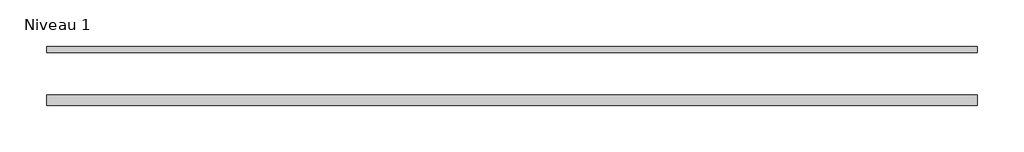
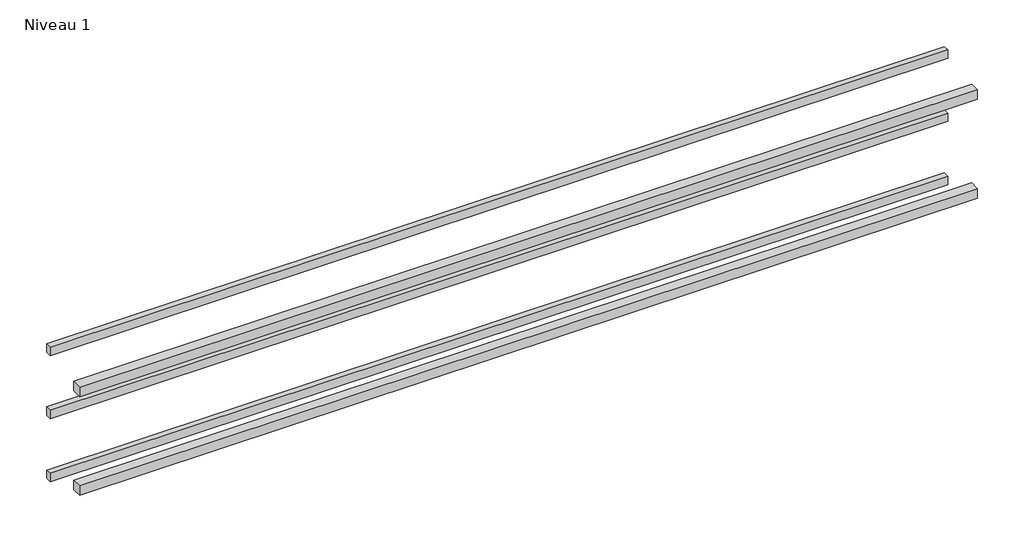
# One storey: 5 beams.
"""IFC4 building model written with IfcOpenShell, lengths in millimetres."""

from ifc_helpers import new_model, si_unit, origin, place, context, project, spatial, transform, mapped, element, save
from components import beam_40x27_4b46f52b, beam_45x45_aacaedf5

model = new_model("IFC4")

# Units and contexts
model_context = context("Model", 3, world=origin())
ifc_project = project(units=[si_unit("LENGTHUNIT", "METRE", prefix="MILLI")], contexts=[model_context])

# Site, building, storey
site = spatial("IfcSite", under=ifc_project)
building = spatial("IfcBuilding", under=site)
storey = spatial("IfcBuildingStorey", under=building, Name="Niveau 1", Elevation=3000.0)

# Beams
placement = place(None, origin())
beam_40x27_shape = beam_40x27_4b46f52b(model_context)
element("IfcBeam", 1, ObjectType="Poutre - Bois d'oeuvre : 40x27", at=placement, inside=storey, context=model_context, shape_type="MappedRepresentation", body=[
    mapped(beam_40x27_shape, transform((-4175.8830184, -849.7584766, 1780.0), x_axis=(1.0, 0.0, 0.0), y_axis=(0.0, 1.0, 0.0), z_axis=(0.0, 0.0, 1.0))),
])
element("IfcBeam", 2, ObjectType="Poutre - Bois d'oeuvre : 40x27", at=placement, inside=storey, context=model_context, shape_type="MappedRepresentation", body=[
    mapped(beam_40x27_shape, transform((-4175.8830184, -849.7584766, 2080.0), x_axis=(1.0, 0.0, 0.0), y_axis=(0.0, 1.0, 0.0), z_axis=(0.0, 0.0, 1.0))),
])
element("IfcBeam", 3, ObjectType="Poutre - Bois d'oeuvre : 40x27", at=placement, inside=storey, context=model_context, shape_type="MappedRepresentation", body=[
    mapped(beam_40x27_shape, transform((-4175.8830184, -849.7584766, 2380.0), x_axis=(1.0, 0.0, 0.0), y_axis=(0.0, 1.0, 0.0), z_axis=(0.0, 0.0, 1.0))),
])
beam_45x45_shape = beam_45x45_aacaedf5(model_context)
element("IfcBeam", 4, ObjectType="Poutre - Bois d'oeuvre : 45x45", at=placement, inside=storey, context=model_context, shape_type="MappedRepresentation", body=[
    mapped(beam_45x45_shape, transform((-4235.3588823, -1070.7584766, 1857.5), x_axis=(1.0, 0.0, 0.0), y_axis=(0.0, 1.0, 0.0), z_axis=(0.0, 0.0, 1.0))),
])
element("IfcBeam", 5, ObjectType="Poutre - Bois d'oeuvre : 45x45", at=placement, inside=storey, context=model_context, shape_type="MappedRepresentation", body=[
    mapped(beam_45x45_shape, transform((-4235.3588823, -1070.7584766, 2327.5), x_axis=(1.0, 0.0, 0.0), y_axis=(0.0, 1.0, 0.0), z_axis=(0.0, 0.0, 1.0))),
])

save(model, "model.ifc")
